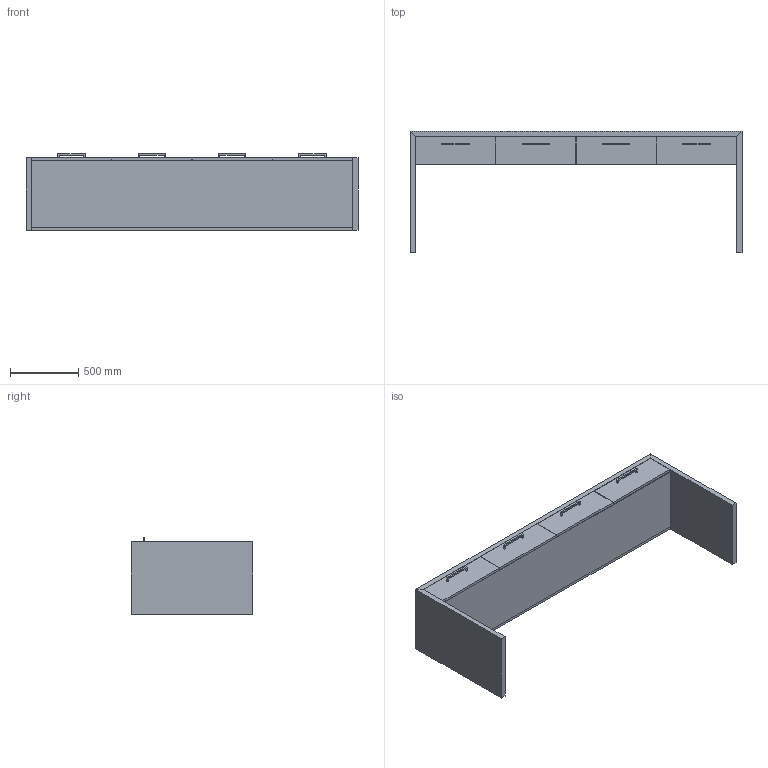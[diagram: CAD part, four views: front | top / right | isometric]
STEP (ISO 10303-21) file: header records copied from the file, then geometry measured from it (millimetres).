
FILE_DESCRIPTION(/* description */ ('','CAx-IF Rec.Pracs.---Representation and Presentation of Product Manufacturing Information (PMI)---4.0---2014-10-13'),/* implementation_level */ '2;1');
FILE_NAME(/* name */ 'CREDENZA STORAGE_FOUNDATION 3.stp',/* time_stamp */ '2024-12-07T18:18:21-05:00',/* author */ ('mbowman'),/* organization */ (''),/* preprocessor_version */ 'ST-DEVELOPER v19.2',/* originating_system */ 'Autodesk Inventor 2023',/* authorisation */ '');
FILE_SCHEMA (('AP242_MANAGED_MODEL_BASED_3D_ENGINEERING_MIM_LF { 1 0 10303 442 1 1 4 }'));
Length unit declared in the file: inch
Products named in the file (3): FOUNDATION^CONSOLE CREDENZA_35x96 4 DOOR-PARTS SOLID; FOUNDATION^CONSOLE CREDENZA_35x96 4 DOOR-PARTS SOLID_1; SCHWINN-BAR PULL 2334.192
Assembly tree (5 placements, depth 2):
  FOUNDATION^CONSOLE CREDENZA_35x96 4 DOOR-PARTS SOLID
    FOUNDATION^CONSOLE CREDENZA_35x96 4 DOOR-PARTS SOLID_1
    SCHWINN-BAR PULL 2334.192  x4
Bounding box: 2438.4 x 889 x 563.4 mm (x, y, z)
Volume: 129696228.1 mm3; surface area: 10104024.5 mm2
Topology: 16 solids, 16 shells, 112 faces, 240 edges, 160 vertices
Faces by surface type: plane 112
Entity records: 2635 total; most frequent: CARTESIAN_POINT 524, DIRECTION 364, ORIENTED_EDGE 336, LINE 168, VECTOR 168, EDGE_CURVE 168, VERTEX_POINT 112, STYLED_ITEM 98
